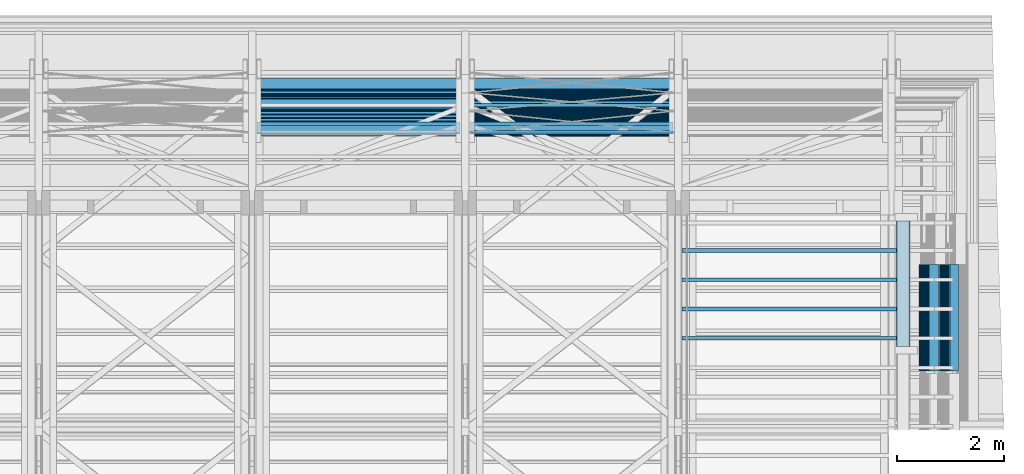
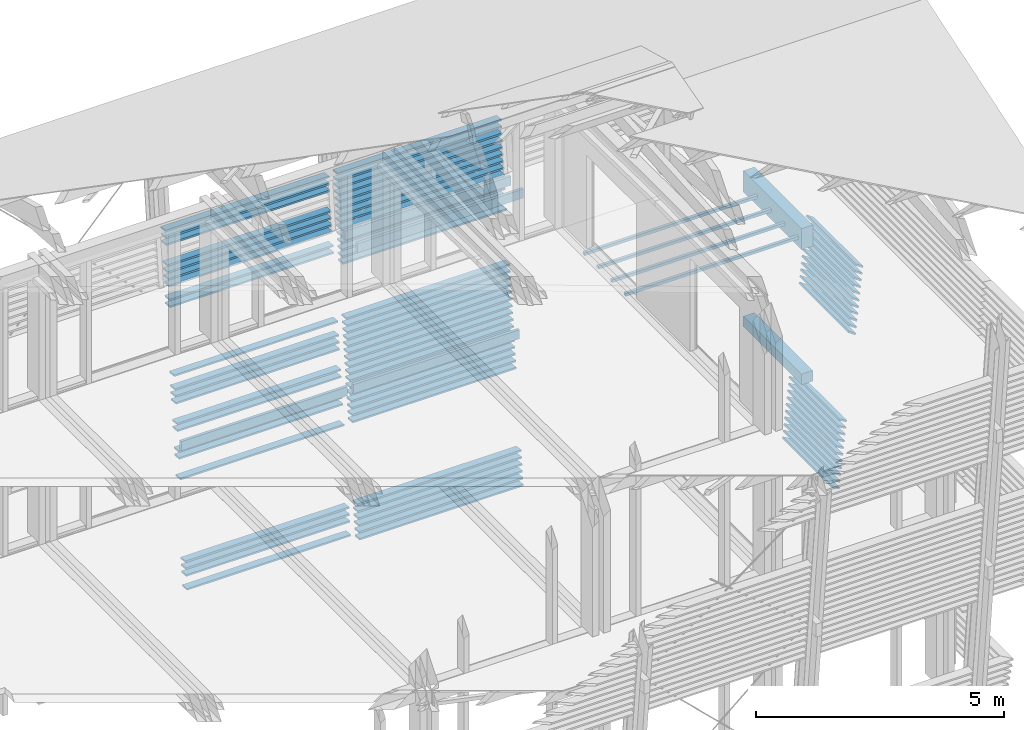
# One storey, part 26 of 48: 90 beams.
"""IFC2X3 building model written with IfcOpenShell, lengths in metres."""

import ifcopenshell
import ifcopenshell.guid

model = None  # the IFC model being written
_history = None  # IfcOwnerHistory: only IFC2X3 demands one
_inside = {}  # id of a spatial element -> (the spatial element, [elements in it])
_under = {}  # id of a project, library or spatial element -> (it, [spatial elements below it])
_declared = {}  # id of a project -> (the project, [libraries it declares])
_typed = {}  # id of a type object -> (the type object, [elements of that type])
_made_of = {}  # id of a material, layer set ... -> (it, [elements and type objects made of it])


def new_model(schema):
    """Start an empty IFC model of exactly this schema.

    Asked for "IFC4X3", IfcOpenShell would pick the latest addendum, in which some entities
    have other attributes; the version numbers below select the first issue.
    IFC2X3 requires an IfcOwnerHistory on every rooted entity: one is made here for all.
    """
    global model, _history
    if schema == "IFC4X3":
        model = ifcopenshell.file(schema_version=(4, 3, 0, 0))
    else:
        model = ifcopenshell.file(schema=schema)
    _inside.clear()
    _under.clear()
    _declared.clear()
    _typed.clear()
    _made_of.clear()
    _history = None
    if model.schema == "IFC2X3":
        org = make("IfcOrganization", Name="unknown")
        user = make(
            "IfcPersonAndOrganization",
            ThePerson=make("IfcPerson", FamilyName="unknown"),
            TheOrganization=org,
        )
        app = make(
            "IfcApplication",
            ApplicationDeveloper=org,
            Version="unknown",
            ApplicationFullName="unknown",
            ApplicationIdentifier="unknown",
        )
        _history = make(
            "IfcOwnerHistory",
            OwningUser=user,
            OwningApplication=app,
            ChangeAction="ADDED",
            CreationDate=0,
        )
    return model


def make(cls, **values):
    """One entity of the class cls with the attributes given. An attribute that is None is left unset."""
    return model.create_entity(
        cls, **{name: value for name, value in values.items() if value is not None}
    )


def rooted(cls, **values):
    """An entity with a GlobalId (a new one), such as an element, a storey or a relation."""
    return make(cls, GlobalId=ifcopenshell.guid.new(), OwnerHistory=_history, **values)


def si_unit(unit_type, name, prefix=None):
    """IfcSIUnit, for example si_unit("LENGTHUNIT", "METRE", prefix="MILLI")."""
    return make("IfcSIUnit", UnitType=unit_type, Prefix=prefix, Name=name)


def assignment(units):
    """IfcUnitAssignment: the units of a project."""
    return None if units is None else make("IfcUnitAssignment", Units=units)


def point(xyz):
    """IfcCartesianPoint."""
    return None if xyz is None else make("IfcCartesianPoint", Coordinates=xyz)


def direction(xyz):
    """IfcDirection."""
    return None if xyz is None else make("IfcDirection", DirectionRatios=xyz)


def frame(location, z_axis=None, x_axis=None):
    """IfcAxis2Placement3D, a coordinate frame: its origin and axes. An axis left out is left unset."""
    return make(
        "IfcAxis2Placement3D",
        Location=point(location),
        Axis=direction(z_axis),
        RefDirection=direction(x_axis),
    )


def origin_with_axes():
    """The frame at (0, 0, 0) with the z axis (0, 0, 1) and the x axis (1, 0, 0) written out."""
    return frame((0.0, 0.0, 0.0), z_axis=(0.0, 0.0, 1.0), x_axis=(1.0, 0.0, 0.0))


def place(relative_to, where):
    """IfcLocalPlacement: puts the frame where relative to a parent placement (None: the world)."""
    return make(
        "IfcLocalPlacement", PlacementRelTo=relative_to, RelativePlacement=where
    )


def context(
    kind, dimensions, precision=None, world=None, true_north=None, identifier=None
):
    """IfcGeometricRepresentationContext, for example the 3D "Model" context."""
    return make(
        "IfcGeometricRepresentationContext",
        ContextIdentifier=identifier,
        ContextType=kind,
        CoordinateSpaceDimension=dimensions,
        Precision=precision,
        WorldCoordinateSystem=world,
        TrueNorth=true_north,
    )


def subcontext(parent, identifier, kind, view, scale=None):
    """IfcGeometricRepresentationSubContext, for example "Body" below "Model"."""
    return make(
        "IfcGeometricRepresentationSubContext",
        ContextIdentifier=identifier,
        ContextType=kind,
        ParentContext=parent,
        TargetScale=scale,
        TargetView=view,
    )


def project(units=None, contexts=None):
    """IfcProject with its units and contexts."""
    return rooted(
        "IfcProject",
        Name="project",
        RepresentationContexts=contexts,
        UnitsInContext=assignment(units),
    )


def spatial(cls, under=None, at=None, **own):
    """A site, building, storey or space (cls), placed at a placement, below another one or the project."""
    s = rooted(cls, ObjectPlacement=at, **own)
    if under is not None:
        _under.setdefault(under.id(), (under, []))[1].append(s)
    return s


def faces_of(points, faces, orient=None, outer=None):
    """IfcFace entities. A face is a list of loops; a loop is a list of indices into points, from 0.

    orient and outer hold one flag for each loop. By default every Orientation is true, the
    first loop of a face is its IfcFaceOuterBound and the others are IfcFaceBound.
    """
    made = []
    for i, loops in enumerate(faces):
        bounds = []
        for j, loop in enumerate(loops):
            is_outer = j == 0 if outer is None else outer[i][j]
            bounds.append(
                make(
                    "IfcFaceOuterBound" if is_outer else "IfcFaceBound",
                    Bound=make("IfcPolyLoop", Polygon=[points[k] for k in loop]),
                    Orientation=True if orient is None else orient[i][j],
                )
            )
        made.append(make("IfcFace", Bounds=bounds))
    return made


def faceted_brep(points, faces, orient=None, outer=None, voids=None):
    """IfcFacetedBrep: a solid bounded by flat faces; with voids (closed shells), ...WithVoids."""
    shared = [point(p) for p in points]
    hull = make("IfcClosedShell", CfsFaces=faces_of(shared, faces, orient, outer))
    if voids is None:
        return make("IfcFacetedBrep", Outer=hull)
    return make(
        "IfcFacetedBrepWithVoids",
        Outer=hull,
        Voids=[
            make(cls, CfsFaces=faces_of(shared, fs, o, b)) for cls, fs, o, b in voids
        ],
    )


def shape(context_of_items, identifier, shape_type, items):
    """IfcShapeRepresentation: the items that make up one representation, for example the "Body"."""
    return make(
        "IfcShapeRepresentation",
        ContextOfItems=context_of_items,
        RepresentationIdentifier=identifier,
        RepresentationType=shape_type,
        Items=items,
    )


def material(Name=None, Category=None):
    """IfcMaterial."""
    return make("IfcMaterial", Name=Name, Category=Category)


def made_of(thing, what):
    """Note that an element or type object is made of a material, layer set ...; save() writes the relation."""
    if what is not None:
        _made_of.setdefault(what.id(), (what, []))[1].append(thing)
    return thing


def element(
    cls,
    number,
    at=None,
    inside=None,
    cuts=None,
    type_object=None,
    material=None,
    context=None,
    identifier="Body",
    shape_type=None,
    held_by="IfcProductDefinitionShape",
    body=None,
    shapes=None,
    **own,
):
    """One element of the class cls, such as IfcWall. Its Tag is "e" and its number.

    at: its placement. inside: the storey or other place that contains it. cuts: it is an
    opening in that element (IfcRelVoidsElement). A single representation is given by context,
    identifier, shape_type and body (its items); several are given by shapes. held_by: the class
    of the entity that holds the representations. save() writes the other relations.
    """
    e = rooted(cls, Tag="e%d" % number, ObjectPlacement=at, **own)
    if body is not None:
        shapes = [shape(context, identifier, shape_type, body)]
    if shapes is not None:
        e.Representation = make(held_by, Representations=shapes)
    if inside is not None:
        _inside.setdefault(inside.id(), (inside, []))[1].append(e)
    if cuts is not None:
        rooted(
            "IfcRelVoidsElement", RelatingBuildingElement=cuts, RelatedOpeningElement=e
        )
    if type_object is not None:
        _typed.setdefault(type_object.id(), (type_object, []))[1].append(e)
    return made_of(e, material)


def aggregate(whole, parts):
    """IfcRelAggregates: a whole, such as a stair, and the parts it consists of."""
    return rooted("IfcRelAggregates", RelatingObject=whole, RelatedObjects=parts)


def save(model, path):
    """Write the relations noted so far, then the file.

    IfcRelAggregates (storeys below a building ...), IfcRelContainedInSpatialStructure (elements
    in a storey), IfcRelDefinesByType, IfcRelAssociatesMaterial and IfcRelDeclares: one each for
    every whole, place, type object, material and project.
    """
    for whole, parts in _under.values():
        aggregate(whole, parts)
    for where, things in _inside.values():
        rooted(
            "IfcRelContainedInSpatialStructure",
            RelatedElements=things,
            RelatingStructure=where,
        )
    for kind, things in _typed.values():
        rooted("IfcRelDefinesByType", RelatedObjects=things, RelatingType=kind)
    for what, things in _made_of.values():
        rooted("IfcRelAssociatesMaterial", RelatedObjects=things, RelatingMaterial=what)
    for by, libraries in _declared.values():
        rooted("IfcRelDeclares", RelatingContext=by, RelatedDefinitions=libraries)
    model.write(path)


model = new_model("IFC2X3")

# Units and contexts
model_context = context("Model", 3, precision=1e-06, world=origin_with_axes(), true_north=direction((0.0, 1.0, 0.0)))
body_context = subcontext(model_context, "Body", "Model", "MODEL_VIEW")
ifc_project = project(units=[si_unit("LENGTHUNIT", "METRE"), si_unit("AREAUNIT", "SQUARE_METRE"), si_unit("VOLUMEUNIT", "CUBIC_METRE"), si_unit("PLANEANGLEUNIT", "RADIAN")], contexts=[model_context])

# Site, building, storey
site_placement = place(None, origin_with_axes())
site = spatial("IfcSite", under=ifc_project, at=site_placement, CompositionType="ELEMENT")
building_placement = place(site_placement, origin_with_axes())
building = spatial("IfcBuilding", under=site, at=building_placement, Name="Building 1", CompositionType="ELEMENT")
storey_placement = place(building_placement, origin_with_axes())
storey = spatial("IfcBuildingStorey", under=building, at=storey_placement, Name="Storey 1", CompositionType="ELEMENT", Elevation=0.0)

# Beams
ifc_material_1 = material(Name="GL28h")
beam_1_placement = place(storey_placement, frame((61.5597437, -183.1714881, 7.699), z_axis=(0.0, 0.0, 1.0), x_axis=(1.0, 0.0, 0.0)))
element("IfcBeam", 1, at=beam_1_placement, inside=storey, material=ifc_material_1, Name="Solive", context=body_context, shape_type="Brep", body=[
    faceted_brep([(3.86, 0.035, 0.11), (3.86, 0.035, -0.11), (0.0, 0.035, -0.11), (0.0, 0.035, 0.11), (3.86, -0.035, -0.11), (0.0, -0.035, -0.11), (3.86, -0.035, 0.11), (0.0, -0.035, 0.11)], [[[0, 1, 2, 3]], [[1, 4, 5, 2]], [[4, 6, 7, 5]], [[6, 0, 3, 7]], [[1, 0, 6, 4]], [[7, 3, 2, 5]]]),
])
ifc_material_2 = material(Name="Moabi")
for number, where, z_axis, x_axis, name in (
    (2, (70.5722899, -186.1580698, 5.9809809), (-0.819152, 0.0, 0.5735764), (0.0, -1.0, 0.0), "garde corp"),
    (3, (70.1054739, -186.1580698, 1.5245854), (-0.8660254, 0.0, 0.5), (0.0, -1.0, 0.0), "garde corp"),
):
    element("IfcBeam", number, at=place(storey_placement, frame(where, z_axis=z_axis, x_axis=x_axis)), inside=storey, material=ifc_material_2, Name=name, context=body_context, shape_type="Brep", body=[
        faceted_brep([(1.9999995, 0.02, -0.1), (1.9999995, -0.02, -0.1), (0.0, -0.02, -0.1), (0.0, 0.02, -0.1), (1.9999995, -0.02, 0.1), (0.0, -0.02, 0.1), (1.9999995, 0.02, 0.1), (0.0, 0.02, 0.1)], [[[0, 1, 2, 3]], [[1, 4, 5, 2]], [[4, 6, 7, 5]], [[6, 0, 3, 7]], [[1, 0, 6, 4]], [[7, 3, 2, 5]]]),
    ])
beam_2_placement = place(storey_placement, frame((69.7097437, -185.3464881, 7.53), z_axis=(0.0, 0.0, 1.0), x_axis=(0.0, -1.0, 0.0)))
element("IfcBeam", 4, at=beam_2_placement, inside=storey, material=ifc_material_1, Name="Buton", context=body_context, shape_type="Brep", body=[
    faceted_brep([(0.0, -0.13, -0.26), (0.0, -0.13, 0.26), (0.0, 0.13, 0.26), (0.0, 0.13, -0.26), (2.3515817, 0.13, -0.26), (2.3515817, -0.13, -0.26), (2.3515817, -0.13, 0.26), (2.3515817, 0.13, 0.26)], [[[0, 1, 2, 3]], [[4, 5, 0, 3]], [[5, 6, 1, 0]], [[7, 4, 3, 2]], [[6, 7, 2, 1]], [[7, 6, 5, 4]]]),
])
for number, where, z_axis, x_axis, name in (
    (5, (65.3927441, -183.5729386, 1.3496567), (0.0, -0.9945219, 0.1045285), (-1.0, 0.0, 0.0), "garde corp"),
    (6, (65.3927441, -182.8203337, 8.5102144), (0.0, -0.9945219, 0.1045285), (-1.0, 0.0, 0.0), "garde corp"),
    (7, (65.3927441, -183.6565614, 0.5540392), (0.0, -0.9945219, 0.1045285), (-1.0, 0.0, 0.0), "garde corp"),
):
    element("IfcBeam", number, at=place(storey_placement, frame(where, z_axis=z_axis, x_axis=x_axis)), inside=storey, material=ifc_material_2, Name=name, context=body_context, shape_type="Brep", body=[
        faceted_brep([(3.806, -0.02, 0.1), (3.806, 0.02, 0.1), (0.0, 0.02, 0.1), (0.0, -0.02, 0.1), (3.806, 0.02, -0.1), (0.0, 0.02, -0.1), (3.806, -0.02, -0.1), (0.0, -0.02, -0.1)], [[[0, 1, 2, 3]], [[1, 4, 5, 2]], [[4, 6, 7, 5]], [[6, 0, 3, 7]], [[1, 0, 6, 4]], [[7, 3, 2, 5]]]),
    ])
beam_3_placement = place(storey_placement, frame((70.2392703, -186.1580698, 2.7975734), z_axis=(-0.8660254, 0.0, 0.5), x_axis=(0.0, -1.0, 0.0)))
element("IfcBeam", 8, at=beam_3_placement, inside=storey, material=ifc_material_2, Name="garde corp", context=body_context, shape_type="Brep", body=[
    faceted_brep([(1.9999995, 0.02, -0.1), (1.9999995, -0.02, -0.1), (0.0, -0.02, -0.1), (0.0, 0.02, -0.1), (1.9999995, -0.02, 0.1), (0.0, -0.02, 0.1), (1.9999995, 0.02, 0.1), (0.0, 0.02, 0.1)], [[[0, 1, 2, 3]], [[1, 4, 5, 2]], [[4, 6, 7, 5]], [[6, 0, 3, 7]], [[1, 0, 6, 4]], [[7, 3, 2, 5]]]),
])
beam_4_placement = place(storey_placement, frame((61.5597433, -183.6814881, 7.699), z_axis=(0.0, 0.0, 1.0), x_axis=(1.0, 0.0, 0.0)))
element("IfcBeam", 9, at=beam_4_placement, inside=storey, material=ifc_material_1, Name="Solive", context=body_context, shape_type="Brep", body=[
    faceted_brep([(3.8600004, -0.035, -0.11), (3.8600004, 0.035, -0.11), (3.8600004, 0.035, 0.11), (3.8600004, -0.035, 0.11), (0.0, 0.035, -0.11), (0.0, 0.035, 0.11), (0.0, -0.035, -0.11), (0.0, -0.035, 0.11)], [[[0, 1, 2, 3]], [[2, 1, 4, 5]], [[1, 0, 6, 4]], [[0, 3, 7, 6]], [[3, 2, 5, 7]], [[7, 5, 4, 6]]]),
])
beam_5_placement = place(storey_placement, frame((69.7097437, -185.3464885, 4.085), z_axis=(0.0, 0.0, 1.0), x_axis=(0.0, -1.0, 0.0)))
element("IfcBeam", 10, at=beam_5_placement, inside=storey, material=ifc_material_1, Name="Buton", context=body_context, shape_type="Brep", body=[
    faceted_brep([(2.3515817, 0.13, -0.13), (2.3515817, 0.13, 0.13), (2.3515817, -0.13, 0.13), (2.3515817, -0.13, -0.13), (0.0, -0.13, -0.13), (0.0, 0.13, -0.13), (0.0, -0.13, 0.13), (0.0, 0.13, 0.13)], [[[0, 1, 2, 3]], [[0, 3, 4, 5]], [[3, 2, 6, 4]], [[1, 0, 5, 7]], [[2, 1, 7, 6]], [[5, 4, 6, 7]]]),
])
beam_6_placement = place(storey_placement, frame((65.5597437, -185.8946515, 7.494), z_axis=(0.0, 0.0, 1.0), x_axis=(1.0, 0.0, 0.0)))
element("IfcBeam", 11, at=beam_6_placement, inside=storey, material=ifc_material_1, Name="Poutre - Bois de construction", context=body_context, shape_type="Brep", body=[
    faceted_brep([(4.02, -0.035, 0.035), (4.02, -0.035, -0.035), (4.02, 0.035, -0.035), (4.02, 0.035, 0.035), (0.0, -0.035, -0.035), (0.0, 0.035, -0.035), (0.0, -0.035, 0.035), (0.0, 0.035, 0.035)], [[[0, 1, 2, 3]], [[2, 1, 4, 5]], [[1, 0, 6, 4]], [[0, 3, 7, 6]], [[3, 2, 5, 7]], [[5, 4, 6, 7]]]),
])
for number, where, z_axis, x_axis, name in (
    (12, (70.5890144, -186.1580698, 6.1401044), (-0.819152, 0.0, 0.5735764), (0.0, -1.0, 0.0), "garde corp"),
    (13, (70.4886671, -186.1580698, 5.1853634), (-0.819152, 0.0, 0.5735764), (0.0, -1.0, 0.0), "garde corp"),
    (14, (70.5221162, -186.1580698, 5.5036104), (-0.819152, 0.0, 0.5735764), (0.0, -1.0, 0.0), "garde corp"),
    (15, (70.6559126, -186.1580698, 6.7765984), (-0.819152, 0.0, 0.5735764), (0.0, -1.0, 0.0), "garde corp"),
    (16, (70.6391881, -186.1580698, 6.6174749), (-0.819152, 0.0, 0.5735764), (0.0, -1.0, 0.0), "garde corp"),
    (17, (70.5053917, -186.1580698, 5.3444869), (-0.819152, 0.0, 0.5735764), (0.0, -1.0, 0.0), "garde corp"),
    (18, (70.6224635, -186.1580698, 6.4583514), (-0.819152, 0.0, 0.5735764), (0.0, -1.0, 0.0), "garde corp"),
    (19, (70.1890967, -186.1580698, 2.3202029), (-0.8660254, 0.0, 0.5), (0.0, -1.0, 0.0), "garde corp"),
    (20, (70.5388408, -186.1580698, 5.6627339), (-0.819152, 0.0, 0.5735764), (0.0, -1.0, 0.0), "garde corp"),
    (21, (70.1556475, -186.1580698, 2.0019559), (-0.8660254, 0.0, 0.5), (0.0, -1.0, 0.0), "garde corp"),
    (22, (70.2225458, -186.1580698, 2.6384499), (-0.8660254, 0.0, 0.5), (0.0, -1.0, 0.0), "garde corp"),
    (23, (70.2058212, -186.1580698, 2.4793264), (-0.8660254, 0.0, 0.5), (0.0, -1.0, 0.0), "garde corp"),
    (24, (70.138923, -186.1580698, 1.8428324), (-0.8660254, 0.0, 0.5), (0.0, -1.0, 0.0), "garde corp"),
    (25, (70.1221984, -186.1580698, 1.6837089), (-0.8660254, 0.0, 0.5), (0.0, -1.0, 0.0), "garde corp"),
    (26, (70.2559949, -186.1580698, 2.9566969), (-0.8660254, 0.0, 0.5), (0.0, -1.0, 0.0), "garde corp"),
    (27, (70.1723721, -186.1580698, 2.1610794), (-0.8660254, 0.0, 0.5), (0.0, -1.0, 0.0), "garde corp"),
    (28, (70.5555653, -186.1580698, 5.8218574), (-0.819152, 0.0, 0.5735764), (0.0, -1.0, 0.0), "garde corp"),
    (29, (70.605739, -186.1580698, 6.2992279), (-0.819152, 0.0, 0.5735764), (0.0, -1.0, 0.0), "garde corp"),
    (30, (70.2727194, -186.1580698, 3.1158204), (-0.8660254, 0.0, 0.5), (0.0, -1.0, 0.0), "garde corp"),
):
    element("IfcBeam", number, at=place(storey_placement, frame(where, z_axis=z_axis, x_axis=x_axis)), inside=storey, material=ifc_material_2, Name=name, context=body_context, shape_type="Brep", body=[
        faceted_brep([(1.9999995, 0.02, -0.1), (1.9999995, -0.02, -0.1), (0.0, -0.02, -0.1), (0.0, 0.02, -0.1), (1.9999995, -0.02, 0.1), (0.0, -0.02, 0.1), (1.9999995, 0.02, 0.1), (0.0, 0.02, 0.1)], [[[0, 1, 2, 3]], [[1, 4, 5, 2]], [[4, 6, 7, 5]], [[6, 0, 3, 7]], [[1, 0, 6, 4]], [[7, 3, 2, 5]]]),
    ])
beam_7_placement = place(storey_placement, frame((61.5597437, -183.5174506, 4.139), z_axis=(0.0, 0.0, 1.0), x_axis=(1.0, 0.0, 0.0)))
element("IfcBeam", 31, at=beam_7_placement, inside=storey, material=ifc_material_1, Name="Solive", context=body_context, shape_type="Brep", body=[
    faceted_brep([(3.86, 0.035, 0.11), (3.86, 0.035, -0.11), (0.0, 0.035, -0.11), (0.0, 0.035, 0.11), (3.86, -0.035, -0.11), (0.0, -0.035, -0.11), (3.86, -0.035, 0.11), (0.0, -0.035, 0.11)], [[[0, 1, 2, 3]], [[1, 4, 5, 2]], [[4, 6, 7, 5]], [[6, 0, 3, 7]], [[1, 0, 6, 4]], [[7, 3, 2, 5]]]),
])
for number, where, z_axis, x_axis, name in (
    (32, (65.3927441, -182.9374055, 7.3963498), (0.0, -0.9945219, 0.1045285), (-1.0, 0.0, 0.0), "garde corp"),
    (33, (65.3927441, -183.5896631, 1.1905332), (0.0, -0.9945219, 0.1045285), (-1.0, 0.0, 0.0), "garde corp"),
):
    element("IfcBeam", number, at=place(storey_placement, frame(where, z_axis=z_axis, x_axis=x_axis)), inside=storey, material=ifc_material_2, Name=name, context=body_context, shape_type="Brep", body=[
        faceted_brep([(3.806, -0.02, 0.1), (3.806, 0.02, 0.1), (0.0, 0.02, 0.1), (0.0, -0.02, 0.1), (3.806, 0.02, -0.1), (0.0, 0.02, -0.1), (3.806, -0.02, -0.1), (0.0, -0.02, -0.1)], [[[0, 1, 2, 3]], [[1, 4, 5, 2]], [[4, 6, 7, 5]], [[6, 0, 3, 7]], [[1, 0, 6, 4]], [[7, 3, 2, 5]]]),
    ])
beam_8_placement = place(storey_placement, frame((65.3927439, -183.1882738, 5.0094973), z_axis=(0.0, -0.9945219, 0.1045285), x_axis=(-1.0, 0.0, 0.0)))
element("IfcBeam", 34, at=beam_8_placement, inside=storey, material=ifc_material_2, Name="garde corp", context=body_context, shape_type="Brep", body=[
    faceted_brep([(3.8047077, -0.02, 0.1), (3.8047077, 0.02, 0.1), (0.0, 0.02, 0.1), (0.0, -0.02, 0.1), (3.8047077, 0.02, -0.1), (0.0, 0.02, -0.1), (3.8047077, -0.02, -0.1), (0.0, -0.02, -0.1)], [[[0, 1, 2, 3]], [[1, 4, 5, 2]], [[4, 6, 7, 5]], [[6, 0, 3, 7]], [[1, 0, 6, 4]], [[7, 3, 2, 5]]]),
])
beam_9_placement = place(storey_placement, frame((65.3927439, -183.2049984, 4.8503738), z_axis=(0.0, -0.9945219, 0.1045285), x_axis=(-1.0, 0.0, 0.0)))
element("IfcBeam", 35, at=beam_9_placement, inside=storey, material=ifc_material_2, Name="garde corp", context=body_context, shape_type="Brep", body=[
    faceted_brep([(3.8048053, -0.02, 0.1), (3.8048053, 0.02, 0.1), (0.0, 0.02, 0.1), (0.0, -0.02, 0.1), (3.8048051, 0.02, -0.1), (0.0, 0.02, -0.1), (3.8048053, -0.02, -0.1), (0.0, -0.02, -0.1)], [[[0, 1, 2, 3]], [[1, 4, 5, 2]], [[4, 6, 7, 5]], [[6, 0, 3, 7]], [[1, 0, 6, 4]], [[7, 3, 2, 5]]]),
])
beam_10_placement = place(storey_placement, frame((65.3927439, -183.2886212, 4.0547563), z_axis=(0.0, -0.9945219, 0.1045285), x_axis=(-1.0, 0.0, 0.0)))
element("IfcBeam", 36, at=beam_10_placement, inside=storey, material=ifc_material_2, Name="garde corp", context=body_context, shape_type="Brep", body=[
    faceted_brep([(3.8048051, -0.02, 0.1), (3.8048051, 0.02, 0.1), (0.0, 0.02, 0.1), (0.0, -0.02, 0.1), (3.8048051, 0.02, -0.1), (0.0, 0.02, -0.1), (3.8048051, -0.02, -0.1), (0.0, -0.02, -0.1)], [[[0, 1, 2, 3]], [[1, 4, 5, 2]], [[4, 6, 7, 5]], [[6, 0, 3, 7]], [[1, 0, 6, 4]], [[7, 3, 2, 5]]]),
])
for number, where, z_axis, x_axis, name in (
    (37, (65.5597437, -186.4446515, 7.494), (0.0, 0.0, 1.0), (1.0, 0.0, 0.0), "Poutre - Bois de construction"),
    (38, (65.5597437, -186.9946515, 7.494), (0.0, 0.0, 1.0), (1.0, 0.0, 0.0), "Poutre - Bois de construction"),
    (39, (65.5597437, -187.5446515, 7.494), (0.0, 0.0, 1.0), (1.0, 0.0, 0.0), "Poutre - Bois de construction"),
):
    element("IfcBeam", number, at=place(storey_placement, frame(where, z_axis=z_axis, x_axis=x_axis)), inside=storey, material=ifc_material_1, Name=name, context=body_context, shape_type="Brep", body=[
        faceted_brep([(4.02, -0.035, 0.035), (4.02, -0.035, -0.035), (4.02, 0.035, -0.035), (4.02, 0.035, 0.035), (0.0, -0.035, -0.035), (0.0, 0.035, -0.035), (0.0, -0.035, 0.035), (0.0, 0.035, 0.035)], [[[0, 1, 2, 3]], [[2, 1, 4, 5]], [[1, 0, 6, 4]], [[0, 3, 7, 6]], [[3, 2, 5, 7]], [[5, 4, 6, 7]]]),
    ])
beam_11_placement = place(storey_placement, frame((65.3927439, -183.221723, 4.6912503), z_axis=(0.0, -0.9945219, 0.1045285), x_axis=(-1.0, 0.0, 0.0)))
element("IfcBeam", 40, at=beam_11_placement, inside=storey, material=ifc_material_2, Name="garde corp", context=body_context, shape_type="Brep", body=[
    faceted_brep([(3.8047071, -0.02, 0.1), (3.8047079, 0.02, 0.1), (0.0, 0.02, 0.1), (0.0, -0.02, 0.1), (3.8047071, 0.02, -0.1), (0.0, 0.02, -0.1), (3.8047071, -0.02, -0.1), (0.0, -0.02, -0.1)], [[[0, 1, 2, 3]], [[1, 4, 5, 2]], [[4, 6, 7, 5]], [[6, 0, 3, 7]], [[1, 0, 6, 4]], [[7, 3, 2, 5]]]),
])
beam_12_placement = place(storey_placement, frame((65.3927441, -183.6063877, 1.0314097), z_axis=(0.0, -0.9945219, 0.1045285), x_axis=(-1.0, 0.0, 0.0)))
element("IfcBeam", 41, at=beam_12_placement, inside=storey, material=ifc_material_2, Name="garde corp", context=body_context, shape_type="Brep", body=[
    faceted_brep([(3.806, -0.02, 0.1), (3.806, 0.02, 0.1), (0.0, 0.02, 0.1), (0.0, -0.02, 0.1), (3.806, 0.02, -0.1), (0.0, 0.02, -0.1), (3.806, -0.02, -0.1), (0.0, -0.02, -0.1)], [[[0, 1, 2, 3]], [[1, 4, 5, 2]], [[4, 6, 7, 5]], [[6, 0, 3, 7]], [[1, 0, 6, 4]], [[7, 3, 2, 5]]]),
])
beam_13_placement = place(storey_placement, frame((65.3927439, -183.3387948, 3.5773858), z_axis=(0.0, -0.9945219, 0.1045285), x_axis=(-1.0, 0.0, 0.0)))
element("IfcBeam", 42, at=beam_13_placement, inside=storey, material=ifc_material_2, Name="garde corp", context=body_context, shape_type="Brep", body=[
    faceted_brep([(3.8047077, -0.02, 0.1), (3.8047077, 0.02, 0.1), (0.0, 0.02, 0.1), (0.0, -0.02, 0.1), (3.8047077, 0.02, -0.1), (0.0, 0.02, -0.1), (3.8047077, -0.02, -0.1), (0.0, -0.02, -0.1)], [[[0, 1, 2, 3]], [[1, 4, 5, 2]], [[4, 6, 7, 5]], [[6, 0, 3, 7]], [[1, 0, 6, 4]], [[7, 3, 2, 5]]]),
])
beam_14_placement = place(storey_placement, frame((65.3927439, -183.3555194, 3.4182623), z_axis=(0.0, -0.9945219, 0.1045285), x_axis=(-1.0, 0.0, 0.0)))
element("IfcBeam", 43, at=beam_14_placement, inside=storey, material=ifc_material_2, Name="garde corp", context=body_context, shape_type="Brep", body=[
    faceted_brep([(3.8047073, -0.02, 0.1), (3.8047077, 0.02, 0.1), (0.0, 0.02, 0.1), (0.0, -0.02, 0.1), (3.8047077, 0.02, -0.1), (0.0, 0.02, -0.1), (3.8047077, -0.02, -0.1), (0.0, -0.02, -0.1)], [[[0, 1, 2, 3]], [[1, 4, 5, 2]], [[4, 6, 7, 5]], [[6, 0, 3, 7]], [[1, 0, 6, 4]], [[7, 3, 2, 5]]]),
])
for number, where, z_axis, x_axis, name in (
    (44, (65.3927441, -183.6231123, 0.8722862), (0.0, -0.9945219, 0.1045285), (-1.0, 0.0, 0.0), "garde corp"),
    (45, (65.3927441, -182.9708546, 7.0781028), (0.0, -0.9945219, 0.1045285), (-1.0, 0.0, 0.0), "garde corp"),
    (46, (65.3927441, -182.7868846, 8.8284614), (0.0, -0.9945219, 0.1045285), (-1.0, 0.0, 0.0), "garde corp"),
    (47, (65.3927437, -182.77016, 8.9875849), (0.0, -0.9945219, 0.1045285), (-1.0, 0.0, 0.0), "garde corp"),
    (48, (65.3927441, -182.920681, 7.5554733), (0.0, -0.9945219, 0.1045285), (-1.0, 0.0, 0.0), "garde corp"),
):
    element("IfcBeam", number, at=place(storey_placement, frame(where, z_axis=z_axis, x_axis=x_axis)), inside=storey, material=ifc_material_2, Name=name, context=body_context, shape_type="Brep", body=[
        faceted_brep([(3.806, -0.02, 0.1), (3.806, 0.02, 0.1), (0.0, 0.02, 0.1), (0.0, -0.02, 0.1), (3.806, 0.02, -0.1), (0.0, 0.02, -0.1), (3.806, -0.02, -0.1), (0.0, -0.02, -0.1)], [[[0, 1, 2, 3]], [[1, 4, 5, 2]], [[4, 6, 7, 5]], [[6, 0, 3, 7]], [[1, 0, 6, 4]], [[7, 3, 2, 5]]]),
    ])
beam_15_placement = place(storey_placement, frame((65.3927439, -183.2718966, 4.2138798), z_axis=(0.0, -0.9945219, 0.1045285), x_axis=(-1.0, 0.0, 0.0)))
element("IfcBeam", 49, at=beam_15_placement, inside=storey, material=ifc_material_2, Name="garde corp", context=body_context, shape_type="Brep", body=[
    faceted_brep([(3.8048051, -0.02, 0.1), (3.8048051, 0.02, 0.1), (0.0, 0.02, 0.1), (0.0, -0.02, 0.1), (3.8048051, 0.02, -0.1), (0.0, 0.02, -0.1), (3.8048051, -0.02, -0.1), (0.0, -0.02, -0.1)], [[[0, 1, 2, 3]], [[1, 4, 5, 2]], [[4, 6, 7, 5]], [[6, 0, 3, 7]], [[1, 0, 6, 4]], [[7, 3, 2, 5]]]),
])
for number, where, z_axis, x_axis, name in (
    (50, (61.3927441, -182.8872319, 7.8737203), (0.0, -0.9945219, 0.1045285), (-1.0, 0.0, 0.0), "garde corp"),
    (51, (61.3927437, -182.8036091, 8.6693379), (0.0, -0.9945219, 0.1045285), (-1.0, 0.0, 0.0), "garde corp"),
    (52, (61.3927441, -182.7868846, 8.8284614), (0.0, -0.9945219, 0.1045285), (-1.0, 0.0, 0.0), "garde corp"),
    (53, (65.3927437, -182.8705073, 8.0328439), (0.0, -0.9945219, 0.1045285), (-1.0, 0.0, 0.0), "garde corp"),
):
    element("IfcBeam", number, at=place(storey_placement, frame(where, z_axis=z_axis, x_axis=x_axis)), inside=storey, material=ifc_material_2, Name=name, context=body_context, shape_type="Brep", body=[
        faceted_brep([(3.806, -0.02, 0.1), (3.806, 0.02, 0.1), (0.0, 0.02, 0.1), (0.0, -0.02, 0.1), (3.806, 0.02, -0.1), (0.0, 0.02, -0.1), (3.806, -0.02, -0.1), (0.0, -0.02, -0.1)], [[[0, 1, 2, 3]], [[1, 4, 5, 2]], [[4, 6, 7, 5]], [[6, 0, 3, 7]], [[1, 0, 6, 4]], [[7, 3, 2, 5]]]),
    ])
beam_16_placement = place(storey_placement, frame((61.3927439, -183.2551721, 4.3730033), z_axis=(0.0, -0.9945219, 0.1045285), x_axis=(-1.0, 0.0, 0.0)))
element("IfcBeam", 54, at=beam_16_placement, inside=storey, material=ifc_material_2, Name="garde corp", context=body_context, shape_type="Brep", body=[
    faceted_brep([(3.8048051, -0.02, 0.1), (3.8048051, 0.02, 0.1), (0.0, 0.02, 0.1), (0.0, -0.02, 0.1), (3.8048051, 0.02, -0.1), (0.0, 0.02, -0.1), (3.8048051, -0.02, -0.1), (0.0, -0.02, -0.1)], [[[0, 1, 2, 3]], [[1, 4, 5, 2]], [[4, 6, 7, 5]], [[6, 0, 3, 7]], [[1, 0, 6, 4]], [[7, 3, 2, 5]]]),
])
beam_17_placement = place(storey_placement, frame((65.3927441, -182.8537828, 8.1919674), z_axis=(0.0, -0.9945219, 0.1045285), x_axis=(-1.0, 0.0, 0.0)))
element("IfcBeam", 55, at=beam_17_placement, inside=storey, material=ifc_material_2, Name="garde corp", context=body_context, shape_type="Brep", body=[
    faceted_brep([(3.806, -0.02, 0.1), (3.806, 0.02, 0.1), (0.0, 0.02, 0.1), (0.0, -0.02, 0.1), (3.806, 0.02, -0.1), (0.0, 0.02, -0.1), (3.806, -0.02, -0.1), (0.0, -0.02, -0.1)], [[[0, 1, 2, 3]], [[1, 4, 5, 2]], [[4, 6, 7, 5]], [[6, 0, 3, 7]], [[1, 0, 6, 4]], [[7, 3, 2, 5]]]),
])
beam_18_placement = place(storey_placement, frame((61.3927439, -183.2384475, 4.5321268), z_axis=(0.0, -0.9945219, 0.1045285), x_axis=(-1.0, 0.0, 0.0)))
element("IfcBeam", 56, at=beam_18_placement, inside=storey, material=ifc_material_2, Name="garde corp", context=body_context, shape_type="Brep", body=[
    faceted_brep([(3.8047077, -0.02, 0.1), (3.8047077, 0.02, 0.1), (0.0, 0.02, 0.1), (0.0, -0.02, 0.1), (3.8047077, 0.02, -0.1), (0.0, 0.02, -0.1), (3.8047077, -0.02, -0.1), (0.0, -0.02, -0.1)], [[[0, 1, 2, 3]], [[1, 4, 5, 2]], [[4, 6, 7, 5]], [[6, 0, 3, 7]], [[1, 0, 6, 4]], [[7, 3, 2, 5]]]),
])
beam_19_placement = place(storey_placement, frame((57.5597437, -183.5174506, 4.139), z_axis=(0.0, 0.0, 1.0), x_axis=(1.0, 0.0, 0.0)))
element("IfcBeam", 57, at=beam_19_placement, inside=storey, material=ifc_material_1, Name="Solive", context=body_context, shape_type="Brep", body=[
    faceted_brep([(3.86, 0.035, 0.11), (3.86, 0.035, -0.11), (0.0, 0.035, -0.11), (0.0, 0.035, 0.11), (3.86, -0.035, -0.11), (0.0, -0.035, -0.11), (3.86, -0.035, 0.11), (0.0, -0.035, 0.11)], [[[0, 1, 2, 3]], [[1, 4, 5, 2]], [[4, 6, 7, 5]], [[6, 0, 3, 7]], [[1, 0, 6, 4]], [[7, 3, 2, 5]]]),
])
for number, where, z_axis, x_axis, name in (
    (58, (61.3927441, -182.8537828, 8.1919674), (0.0, -0.9945219, 0.1045285), (-1.0, 0.0, 0.0), "garde corp"),
    (59, (61.3927441, -183.6063877, 1.0314097), (0.0, -0.9945219, 0.1045285), (-1.0, 0.0, 0.0), "garde corp"),
    (60, (65.3927441, -183.6398368, 0.7131627), (0.0, -0.9945219, 0.1045285), (-1.0, 0.0, 0.0), "garde corp"),
):
    element("IfcBeam", number, at=place(storey_placement, frame(where, z_axis=z_axis, x_axis=x_axis)), inside=storey, material=ifc_material_2, Name=name, context=body_context, shape_type="Brep", body=[
        faceted_brep([(3.806, -0.02, 0.1), (3.806, 0.02, 0.1), (0.0, 0.02, 0.1), (0.0, -0.02, 0.1), (3.806, 0.02, -0.1), (0.0, 0.02, -0.1), (3.806, -0.02, -0.1), (0.0, -0.02, -0.1)], [[[0, 1, 2, 3]], [[1, 4, 5, 2]], [[4, 6, 7, 5]], [[6, 0, 3, 7]], [[1, 0, 6, 4]], [[7, 3, 2, 5]]]),
    ])
beam_20_placement = place(storey_placement, frame((61.3927439, -183.1548247, 5.3277443), z_axis=(0.0, -0.9945219, 0.1045285), x_axis=(-1.0, 0.0, 0.0)))
element("IfcBeam", 61, at=beam_20_placement, inside=storey, material=ifc_material_2, Name="garde corp", context=body_context, shape_type="Brep", body=[
    faceted_brep([(3.8048053, -0.02, 0.1), (3.8048053, 0.02, 0.1), (0.0, 0.02, 0.1), (0.0, -0.02, 0.1), (3.8048051, 0.02, -0.1), (0.0, 0.02, -0.1), (3.8048053, -0.02, -0.1), (0.0, -0.02, -0.1)], [[[0, 1, 2, 3]], [[1, 4, 5, 2]], [[4, 6, 7, 5]], [[6, 0, 3, 7]], [[1, 0, 6, 4]], [[7, 3, 2, 5]]]),
])
beam_21_placement = place(storey_placement, frame((61.3927439, -183.3053457, 3.8956328), z_axis=(0.0, -0.9945219, 0.1045285), x_axis=(-1.0, 0.0, 0.0)))
element("IfcBeam", 62, at=beam_21_placement, inside=storey, material=ifc_material_2, Name="garde corp", context=body_context, shape_type="Brep", body=[
    faceted_brep([(3.8047073, -0.02, 0.1), (3.8047075, 0.02, 0.1), (0.0, 0.02, 0.1), (0.0, -0.02, 0.1), (3.8047077, 0.02, -0.1), (0.0, 0.02, -0.1), (3.8047077, -0.02, -0.1), (0.0, -0.02, -0.1)], [[[0, 1, 2, 3]], [[1, 4, 5, 2]], [[4, 6, 7, 5]], [[6, 0, 3, 7]], [[1, 0, 6, 4]], [[7, 3, 2, 5]]]),
])
beam_22_placement = place(storey_placement, frame((61.3927439, -183.3722439, 3.2591388), z_axis=(0.0, -0.9945219, 0.1045285), x_axis=(-1.0, 0.0, 0.0)))
element("IfcBeam", 63, at=beam_22_placement, inside=storey, material=ifc_material_2, Name="garde corp", context=body_context, shape_type="Brep", body=[
    faceted_brep([(3.8048051, -0.02, 0.1), (3.8048051, 0.02, 0.1), (0.0, 0.02, 0.1), (0.0, -0.02, 0.1), (3.8048051, 0.02, -0.1), (0.0, 0.02, -0.1), (3.8048051, -0.02, -0.1), (0.0, -0.02, -0.1)], [[[0, 1, 2, 3]], [[1, 4, 5, 2]], [[4, 6, 7, 5]], [[6, 0, 3, 7]], [[1, 0, 6, 4]], [[7, 3, 2, 5]]]),
])
for number, where, z_axis, x_axis, name in (
    (64, (61.3927441, -183.5896631, 1.1905332), (0.0, -0.9945219, 0.1045285), (-1.0, 0.0, 0.0), "garde corp"),
    (65, (61.3927437, -182.77016, 8.9875849), (0.0, -0.9945219, 0.1045285), (-1.0, 0.0, 0.0), "garde corp"),
    (66, (61.3927441, -183.6398368, 0.7131627), (0.0, -0.9945219, 0.1045285), (-1.0, 0.0, 0.0), "garde corp"),
    (67, (61.3927437, -182.8705073, 8.0328439), (0.0, -0.9945219, 0.1045285), (-1.0, 0.0, 0.0), "garde corp"),
):
    element("IfcBeam", number, at=place(storey_placement, frame(where, z_axis=z_axis, x_axis=x_axis)), inside=storey, material=ifc_material_2, Name=name, context=body_context, shape_type="Brep", body=[
        faceted_brep([(3.806, -0.02, 0.1), (3.806, 0.02, 0.1), (0.0, 0.02, 0.1), (0.0, -0.02, 0.1), (3.806, 0.02, -0.1), (0.0, 0.02, -0.1), (3.806, -0.02, -0.1), (0.0, -0.02, -0.1)], [[[0, 1, 2, 3]], [[1, 4, 5, 2]], [[4, 6, 7, 5]], [[6, 0, 3, 7]], [[1, 0, 6, 4]], [[7, 3, 2, 5]]]),
    ])
beam_23_placement = place(storey_placement, frame((61.3927439, -183.1715493, 5.1686208), z_axis=(0.0, -0.9945219, 0.1045285), x_axis=(-1.0, 0.0, 0.0)))
element("IfcBeam", 68, at=beam_23_placement, inside=storey, material=ifc_material_2, Name="garde corp", context=body_context, shape_type="Brep", body=[
    faceted_brep([(3.8048053, -0.02, 0.1), (3.8048053, 0.02, 0.1), (0.0, 0.02, 0.1), (0.0, -0.02, 0.1), (3.8048051, 0.02, -0.1), (0.0, 0.02, -0.1), (3.8048053, -0.02, -0.1), (0.0, -0.02, -0.1)], [[[0, 1, 2, 3]], [[1, 4, 5, 2]], [[4, 6, 7, 5]], [[6, 0, 3, 7]], [[1, 0, 6, 4]], [[7, 3, 2, 5]]]),
])
beam_24_placement = place(storey_placement, frame((61.3927441, -183.5729386, 1.3496567), z_axis=(0.0, -0.9945219, 0.1045285), x_axis=(-1.0, 0.0, 0.0)))
element("IfcBeam", 69, at=beam_24_placement, inside=storey, material=ifc_material_2, Name="garde corp", context=body_context, shape_type="Brep", body=[
    faceted_brep([(3.806, -0.02, 0.1), (3.806, 0.02, 0.1), (0.0, 0.02, 0.1), (0.0, -0.02, 0.1), (3.806, 0.02, -0.1), (0.0, 0.02, -0.1), (3.806, -0.02, -0.1), (0.0, -0.02, -0.1)], [[[0, 1, 2, 3]], [[1, 4, 5, 2]], [[4, 6, 7, 5]], [[6, 0, 3, 7]], [[1, 0, 6, 4]], [[7, 3, 2, 5]]]),
])
beam_25_placement = place(storey_placement, frame((61.3927439, -183.3220703, 3.7365093), z_axis=(0.0, -0.9945219, 0.1045285), x_axis=(-1.0, 0.0, 0.0)))
element("IfcBeam", 70, at=beam_25_placement, inside=storey, material=ifc_material_2, Name="garde corp", context=body_context, shape_type="Brep", body=[
    faceted_brep([(3.8047073, -0.02, 0.1), (3.8047077, 0.02, 0.1), (0.0, 0.02, 0.1), (0.0, -0.02, 0.1), (3.8047077, 0.02, -0.1), (0.0, 0.02, -0.1), (3.8047077, -0.02, -0.1), (0.0, -0.02, -0.1)], [[[0, 1, 2, 3]], [[1, 4, 5, 2]], [[4, 6, 7, 5]], [[6, 0, 3, 7]], [[1, 0, 6, 4]], [[7, 3, 2, 5]]]),
])
beam_26_placement = place(storey_placement, frame((61.3927439, -183.1213756, 5.6459913), z_axis=(0.0, -0.9945219, 0.1045285), x_axis=(-1.0, 0.0, 0.0)))
element("IfcBeam", 71, at=beam_26_placement, inside=storey, material=ifc_material_2, Name="garde corp", context=body_context, shape_type="Brep", body=[
    faceted_brep([(3.8048053, -0.02, 0.1), (3.8048053, 0.02, 0.1), (0.0, 0.02, 0.1), (0.0, -0.02, 0.1), (3.8048051, 0.02, -0.1), (0.0, 0.02, -0.1), (3.8048053, -0.02, -0.1), (0.0, -0.02, -0.1)], [[[0, 1, 2, 3]], [[1, 4, 5, 2]], [[4, 6, 7, 5]], [[6, 0, 3, 7]], [[1, 0, 6, 4]], [[7, 3, 2, 5]]]),
])
beam_27_placement = place(storey_placement, frame((61.3927439, -183.1882738, 5.0094973), z_axis=(0.0, -0.9945219, 0.1045285), x_axis=(-1.0, 0.0, 0.0)))
element("IfcBeam", 72, at=beam_27_placement, inside=storey, material=ifc_material_2, Name="garde corp", context=body_context, shape_type="Brep", body=[
    faceted_brep([(3.8047077, -0.02, 0.1), (3.8047077, 0.02, 0.1), (0.0, 0.02, 0.1), (0.0, -0.02, 0.1), (3.8047077, 0.02, -0.1), (0.0, 0.02, -0.1), (3.8047077, -0.02, -0.1), (0.0, -0.02, -0.1)], [[[0, 1, 2, 3]], [[1, 4, 5, 2]], [[4, 6, 7, 5]], [[6, 0, 3, 7]], [[1, 0, 6, 4]], [[7, 3, 2, 5]]]),
])
beam_28_placement = place(storey_placement, frame((65.3927441, -182.9875792, 6.9189793), z_axis=(0.0, -0.9945219, 0.1045285), x_axis=(-1.0, 0.0, 0.0)))
element("IfcBeam", 73, at=beam_28_placement, inside=storey, material=ifc_material_2, Name="garde corp", context=body_context, shape_type="Brep", body=[
    faceted_brep([(3.806, -0.02, 0.1), (3.806, 0.02, 0.1), (0.0, 0.02, 0.1), (0.0, -0.02, 0.1), (3.806, 0.02, -0.1), (0.0, 0.02, -0.1), (3.806, -0.02, -0.1), (0.0, -0.02, -0.1)], [[[0, 1, 2, 3]], [[1, 4, 5, 2]], [[4, 6, 7, 5]], [[6, 0, 3, 7]], [[1, 0, 6, 4]], [[7, 3, 2, 5]]]),
])
beam_29_placement = place(storey_placement, frame((65.3927439, -183.3220703, 3.7365093), z_axis=(0.0, -0.9945219, 0.1045285), x_axis=(-1.0, 0.0, 0.0)))
element("IfcBeam", 74, at=beam_29_placement, inside=storey, material=ifc_material_2, Name="garde corp", context=body_context, shape_type="Brep", body=[
    faceted_brep([(3.8047073, -0.02, 0.1), (3.8047077, 0.02, 0.1), (0.0, 0.02, 0.1), (0.0, -0.02, 0.1), (3.8047077, 0.02, -0.1), (0.0, 0.02, -0.1), (3.8047077, -0.02, -0.1), (0.0, -0.02, -0.1)], [[[0, 1, 2, 3]], [[1, 4, 5, 2]], [[4, 6, 7, 5]], [[6, 0, 3, 7]], [[1, 0, 6, 4]], [[7, 3, 2, 5]]]),
])
beam_30_placement = place(storey_placement, frame((65.3927441, -182.8872319, 7.8737203), z_axis=(0.0, -0.9945219, 0.1045285), x_axis=(-1.0, 0.0, 0.0)))
element("IfcBeam", 75, at=beam_30_placement, inside=storey, material=ifc_material_2, Name="garde corp", context=body_context, shape_type="Brep", body=[
    faceted_brep([(3.806, -0.02, 0.1), (3.806, 0.02, 0.1), (0.0, 0.02, 0.1), (0.0, -0.02, 0.1), (3.806, 0.02, -0.1), (0.0, 0.02, -0.1), (3.806, -0.02, -0.1), (0.0, -0.02, -0.1)], [[[0, 1, 2, 3]], [[1, 4, 5, 2]], [[4, 6, 7, 5]], [[6, 0, 3, 7]], [[1, 0, 6, 4]], [[7, 3, 2, 5]]]),
])
for number, where, z_axis, x_axis, name in (
    (76, (65.3927439, -183.1213756, 5.6459913), (0.0, -0.9945219, 0.1045285), (-1.0, 0.0, 0.0), "garde corp"),
    (77, (65.3927439, -183.1548247, 5.3277443), (0.0, -0.9945219, 0.1045285), (-1.0, 0.0, 0.0), "garde corp"),
):
    element("IfcBeam", number, at=place(storey_placement, frame(where, z_axis=z_axis, x_axis=x_axis)), inside=storey, material=ifc_material_2, Name=name, context=body_context, shape_type="Brep", body=[
        faceted_brep([(3.8048053, -0.02, 0.1), (3.8048053, 0.02, 0.1), (0.0, 0.02, 0.1), (0.0, -0.02, 0.1), (3.8048051, 0.02, -0.1), (0.0, 0.02, -0.1), (3.8048053, -0.02, -0.1), (0.0, -0.02, -0.1)], [[[0, 1, 2, 3]], [[1, 4, 5, 2]], [[4, 6, 7, 5]], [[6, 0, 3, 7]], [[1, 0, 6, 4]], [[7, 3, 2, 5]]]),
    ])
beam_31_placement = place(storey_placement, frame((65.3927439, -183.3722439, 3.2591388), z_axis=(0.0, -0.9945219, 0.1045285), x_axis=(-1.0, 0.0, 0.0)))
element("IfcBeam", 78, at=beam_31_placement, inside=storey, material=ifc_material_2, Name="garde corp", context=body_context, shape_type="Brep", body=[
    faceted_brep([(3.8048051, -0.02, 0.1), (3.8048051, 0.02, 0.1), (0.0, 0.02, 0.1), (0.0, -0.02, 0.1), (3.8048051, 0.02, -0.1), (0.0, 0.02, -0.1), (3.8048051, -0.02, -0.1), (0.0, -0.02, -0.1)], [[[0, 1, 2, 3]], [[1, 4, 5, 2]], [[4, 6, 7, 5]], [[6, 0, 3, 7]], [[1, 0, 6, 4]], [[7, 3, 2, 5]]]),
])
beam_32_placement = place(storey_placement, frame((65.3927439, -183.1715493, 5.1686208), z_axis=(0.0, -0.9945219, 0.1045285), x_axis=(-1.0, 0.0, 0.0)))
element("IfcBeam", 79, at=beam_32_placement, inside=storey, material=ifc_material_2, Name="garde corp", context=body_context, shape_type="Brep", body=[
    faceted_brep([(3.8048053, -0.02, 0.1), (3.8048053, 0.02, 0.1), (0.0, 0.02, 0.1), (0.0, -0.02, 0.1), (3.8048051, 0.02, -0.1), (0.0, 0.02, -0.1), (3.8048053, -0.02, -0.1), (0.0, -0.02, -0.1)], [[[0, 1, 2, 3]], [[1, 4, 5, 2]], [[4, 6, 7, 5]], [[6, 0, 3, 7]], [[1, 0, 6, 4]], [[7, 3, 2, 5]]]),
])
beam_33_placement = place(storey_placement, frame((65.3927439, -183.2384475, 4.5321268), z_axis=(0.0, -0.9945219, 0.1045285), x_axis=(-1.0, 0.0, 0.0)))
element("IfcBeam", 80, at=beam_33_placement, inside=storey, material=ifc_material_2, Name="garde corp", context=body_context, shape_type="Brep", body=[
    faceted_brep([(3.8047077, -0.02, 0.1), (3.8047077, 0.02, 0.1), (0.0, 0.02, 0.1), (0.0, -0.02, 0.1), (3.8047077, 0.02, -0.1), (0.0, 0.02, -0.1), (3.8047077, -0.02, -0.1), (0.0, -0.02, -0.1)], [[[0, 1, 2, 3]], [[1, 4, 5, 2]], [[4, 6, 7, 5]], [[6, 0, 3, 7]], [[1, 0, 6, 4]], [[7, 3, 2, 5]]]),
])
for number, where, z_axis, x_axis, name in (
    (81, (65.3927437, -182.8036091, 8.6693379), (0.0, -0.9945219, 0.1045285), (-1.0, 0.0, 0.0), "garde corp"),
    (82, (65.3927441, -182.9039564, 7.7145968), (0.0, -0.9945219, 0.1045285), (-1.0, 0.0, 0.0), "garde corp"),
):
    element("IfcBeam", number, at=place(storey_placement, frame(where, z_axis=z_axis, x_axis=x_axis)), inside=storey, material=ifc_material_2, Name=name, context=body_context, shape_type="Brep", body=[
        faceted_brep([(3.806, -0.02, 0.1), (3.806, 0.02, 0.1), (0.0, 0.02, 0.1), (0.0, -0.02, 0.1), (3.806, 0.02, -0.1), (0.0, 0.02, -0.1), (3.806, -0.02, -0.1), (0.0, -0.02, -0.1)], [[[0, 1, 2, 3]], [[1, 4, 5, 2]], [[4, 6, 7, 5]], [[6, 0, 3, 7]], [[1, 0, 6, 4]], [[7, 3, 2, 5]]]),
    ])
beam_34_placement = place(storey_placement, frame((65.3927439, -183.3053457, 3.8956328), z_axis=(0.0, -0.9945219, 0.1045285), x_axis=(-1.0, 0.0, 0.0)))
element("IfcBeam", 83, at=beam_34_placement, inside=storey, material=ifc_material_2, Name="garde corp", context=body_context, shape_type="Brep", body=[
    faceted_brep([(3.8047073, -0.02, 0.1), (3.8047075, 0.02, 0.1), (0.0, 0.02, 0.1), (0.0, -0.02, 0.1), (3.8047077, 0.02, -0.1), (0.0, 0.02, -0.1), (3.8047077, -0.02, -0.1), (0.0, -0.02, -0.1)], [[[0, 1, 2, 3]], [[1, 4, 5, 2]], [[4, 6, 7, 5]], [[6, 0, 3, 7]], [[1, 0, 6, 4]], [[7, 3, 2, 5]]]),
])
beam_35_placement = place(storey_placement, frame((65.3927439, -183.2551721, 4.3730033), z_axis=(0.0, -0.9945219, 0.1045285), x_axis=(-1.0, 0.0, 0.0)))
element("IfcBeam", 84, at=beam_35_placement, inside=storey, material=ifc_material_2, Name="garde corp", context=body_context, shape_type="Brep", body=[
    faceted_brep([(3.8048051, -0.02, 0.1), (3.8048051, 0.02, 0.1), (0.0, 0.02, 0.1), (0.0, -0.02, 0.1), (3.8048051, 0.02, -0.1), (0.0, 0.02, -0.1), (3.8048051, -0.02, -0.1), (0.0, -0.02, -0.1)], [[[0, 1, 2, 3]], [[1, 4, 5, 2]], [[4, 6, 7, 5]], [[6, 0, 3, 7]], [[1, 0, 6, 4]], [[7, 3, 2, 5]]]),
])
for number, where, z_axis, x_axis, name in (
    (85, (65.3927441, -182.8370582, 8.3510909), (0.0, -0.9945219, 0.1045285), (-1.0, 0.0, 0.0), "garde corp"),
    (86, (65.3927441, -182.9541301, 7.2372263), (0.0, -0.9945219, 0.1045285), (-1.0, 0.0, 0.0), "garde corp"),
):
    element("IfcBeam", number, at=place(storey_placement, frame(where, z_axis=z_axis, x_axis=x_axis)), inside=storey, material=ifc_material_2, Name=name, context=body_context, shape_type="Brep", body=[
        faceted_brep([(3.806, -0.02, 0.1), (3.806, 0.02, 0.1), (0.0, 0.02, 0.1), (0.0, -0.02, 0.1), (3.806, 0.02, -0.1), (0.0, 0.02, -0.1), (3.806, -0.02, -0.1), (0.0, -0.02, -0.1)], [[[0, 1, 2, 3]], [[1, 4, 5, 2]], [[4, 6, 7, 5]], [[6, 0, 3, 7]], [[1, 0, 6, 4]], [[7, 3, 2, 5]]]),
    ])
beam_36_placement = place(storey_placement, frame((65.3927439, -183.1381002, 5.4868678), z_axis=(0.0, -0.9945219, 0.1045285), x_axis=(-1.0, 0.0, 0.0)))
element("IfcBeam", 87, at=beam_36_placement, inside=storey, material=ifc_material_2, Name="garde corp", context=body_context, shape_type="Brep", body=[
    faceted_brep([(3.8047071, -0.02, 0.1), (3.8047079, 0.02, 0.1), (0.0, 0.02, 0.1), (0.0, -0.02, 0.1), (3.8047077, 0.02, -0.1), (0.0, 0.02, -0.1), (3.8047071, -0.02, -0.1), (0.0, -0.02, -0.1)], [[[0, 1, 2, 3]], [[1, 4, 5, 2]], [[4, 6, 7, 5]], [[6, 0, 3, 7]], [[1, 0, 6, 4]], [[7, 3, 2, 5]]]),
])
for number, where, z_axis, x_axis, name in (
    (88, (61.3927441, -182.9374055, 7.3963498), (0.0, -0.9945219, 0.1045285), (-1.0, 0.0, 0.0), "garde corp"),
    (89, (61.3927441, -182.9541301, 7.2372263), (0.0, -0.9945219, 0.1045285), (-1.0, 0.0, 0.0), "garde corp"),
    (90, (61.3927441, -182.9039564, 7.7145968), (0.0, -0.9945219, 0.1045285), (-1.0, 0.0, 0.0), "garde corp"),
):
    element("IfcBeam", number, at=place(storey_placement, frame(where, z_axis=z_axis, x_axis=x_axis)), inside=storey, material=ifc_material_2, Name=name, context=body_context, shape_type="Brep", body=[
        faceted_brep([(3.806, -0.02, 0.1), (3.806, 0.02, 0.1), (0.0, 0.02, 0.1), (0.0, -0.02, 0.1), (3.806, 0.02, -0.1), (0.0, 0.02, -0.1), (3.806, -0.02, -0.1), (0.0, -0.02, -0.1)], [[[0, 1, 2, 3]], [[1, 4, 5, 2]], [[4, 6, 7, 5]], [[6, 0, 3, 7]], [[1, 0, 6, 4]], [[7, 3, 2, 5]]]),
    ])

save(model, "model.ifc")
